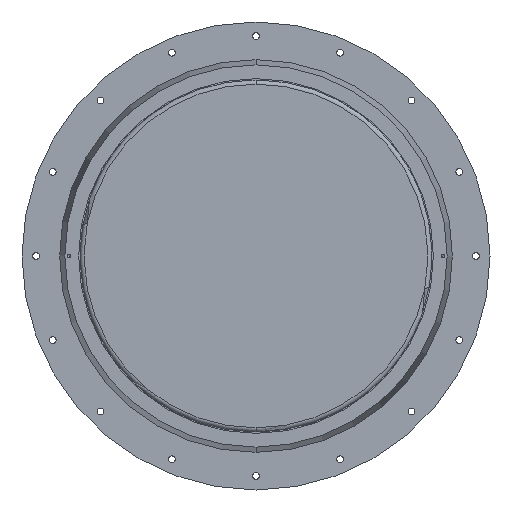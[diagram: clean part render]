
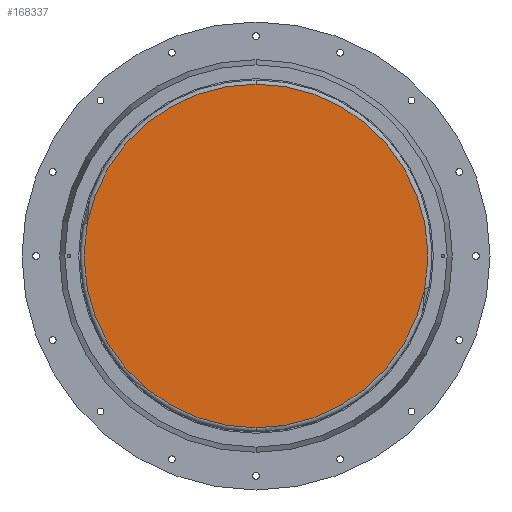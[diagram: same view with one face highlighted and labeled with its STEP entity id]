
A CAD part, front view. The second image highlights one B-rep face of the part: STEP entity #168337.
In plain terms, the highlighted planar face has unit normal (0, -1, 0).
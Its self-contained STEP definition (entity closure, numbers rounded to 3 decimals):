
#1061 = CARTESIAN_POINT ( 'NONE',  ( 625., -1805., 13.91 ) ) ;
#4769 = CARTESIAN_POINT ( 'NONE',  ( -625., -1805., -13.785 ) ) ;
#6209 = CIRCLE ( 'NONE', #57249, 625. ) ;
#6266 = DIRECTION ( 'NONE',  ( 0., 0., -1. ) ) ;
#7324 = B_SPLINE_CURVE_WITH_KNOTS ( 'NONE', 3,
 ( #79245, #93070, #38155, #134962, #52027, #148863, #65984 ),
 .UNSPECIFIED., .F., .F.,
 ( 4, 3, 4 ),
 ( 0., 0., 0. ),
 .UNSPECIFIED. ) ;
#9599 = VERTEX_POINT ( 'NONE', #129314 ) ;
#9802 = CARTESIAN_POINT ( 'NONE',  ( 624.855, -1805., 13.9 ) ) ;
#10900 = CARTESIAN_POINT ( 'NONE',  ( 0., -1805., 0. ) ) ;
#11301 = CARTESIAN_POINT ( 'NONE',  ( 624.845, -1805., 13.908 ) ) ;
#14121 = LINE ( 'NONE', #115182, #83320 ) ;
#14267 = VECTOR ( 'NONE', #56891, 1000. ) ;
#19012 = PLANE ( 'NONE',  #19075 ) ;
#19075 = AXIS2_PLACEMENT_3D ( 'NONE', #172089, #89093, #6266 ) ;
#19304 = CARTESIAN_POINT ( 'NONE',  ( -624.907, -1805., -13.859 ) ) ;
#20098 = CARTESIAN_POINT ( 'NONE',  ( 624.845, -1805., -13.908 ) ) ;
#21547 = B_SPLINE_CURVE_WITH_KNOTS ( 'NONE', 3,
 ( #4769, #88204, #19304, #116162, #33259, #130023, #47149 ),
 .UNSPECIFIED., .F., .F.,
 ( 4, 3, 4 ),
 ( 0., 0., 0. ),
 .UNSPECIFIED. ) ;
#22554 = ORIENTED_EDGE ( 'NONE', *, *, #179255, .F. ) ;
#23729 = CARTESIAN_POINT ( 'NONE',  ( 624.845, -1805., 13.908 ) ) ;
#24840 = DIRECTION ( 'NONE',  ( 0., 0., 1. ) ) ;
#28250 = EDGE_CURVE ( 'NONE', #132377, #141852, #41502, .T. ) ;
#29102 = DIRECTION ( 'NONE',  ( 0., 1., 0. ) ) ;
#32257 = DIRECTION ( 'NONE',  ( 0., 0., 1. ) ) ;
#33259 = CARTESIAN_POINT ( 'NONE',  ( -624.855, -1805., -13.9 ) ) ;
#34794 = CARTESIAN_POINT ( 'NONE',  ( -624.845, -1805., 13.908 ) ) ;
#36974 = EDGE_CURVE ( 'NONE', #176943, #163626, #168577, .T. ) ;
#37051 = CARTESIAN_POINT ( 'NONE',  ( 624.953, -1805., 13.822 ) ) ;
#38155 = CARTESIAN_POINT ( 'NONE',  ( -624.855, -1805., 13.9 ) ) ;
#39246 = CARTESIAN_POINT ( 'NONE',  ( -625., -1805., 13.785 ) ) ;
#39607 = ORIENTED_EDGE ( 'NONE', *, *, #113387, .F. ) ;
#41502 = LINE ( 'NONE', #95033, #115155 ) ;
#44956 = AXIS2_PLACEMENT_3D ( 'NONE', #160264, #77295, #174187 ) ;
#47149 = CARTESIAN_POINT ( 'NONE',  ( -624.845, -1805., -13.908 ) ) ;
#47938 = CARTESIAN_POINT ( 'NONE',  ( 624.855, -1805., -13.9 ) ) ;
#48650 = VERTEX_POINT ( 'NONE', #91569 ) ;
#50781 = ORIENTED_EDGE ( 'NONE', *, *, #150040, .T. ) ;
#52027 = CARTESIAN_POINT ( 'NONE',  ( -624.907, -1805., 13.859 ) ) ;
#54934 = AXIS2_PLACEMENT_3D ( 'NONE', #112015, #29102, #125881 ) ;
#56891 = DIRECTION ( 'NONE',  ( 0., 0., 1. ) ) ;
#57249 = AXIS2_PLACEMENT_3D ( 'NONE', #10900, #107707, #24840 ) ;
#61391 = ORIENTED_EDGE ( 'NONE', *, *, #173688, .F. ) ;
#61596 = ORIENTED_EDGE ( 'NONE', *, *, #68722, .T. ) ;
#61641 = EDGE_CURVE ( 'NONE', #131328, #84286, #175269, .T. ) ;
#61865 = CARTESIAN_POINT ( 'NONE',  ( 624.907, -1805., -13.859 ) ) ;
#64129 = VERTEX_POINT ( 'NONE', #73007 ) ;
#65984 = CARTESIAN_POINT ( 'NONE',  ( -625., -1805., 13.785 ) ) ;
#68722 = EDGE_CURVE ( 'NONE', #64129, #48650, #21547, .T. ) ;
#69966 = AXIS2_PLACEMENT_3D ( 'NONE', #158981, #75998, #172896 ) ;
#73007 = CARTESIAN_POINT ( 'NONE',  ( -625., -1805., -13.785 ) ) ;
#75700 = CARTESIAN_POINT ( 'NONE',  ( 625., -1805., -13.785 ) ) ;
#75998 = DIRECTION ( 'NONE',  ( 0., 1., 0. ) ) ;
#77295 = DIRECTION ( 'NONE',  ( 0., 1., 0. ) ) ;
#78861 = CARTESIAN_POINT ( 'NONE',  ( 0., -1805., -625. ) ) ;
#79245 = CARTESIAN_POINT ( 'NONE',  ( -624.845, -1805., 13.908 ) ) ;
#82866 = CARTESIAN_POINT ( 'NONE',  ( 625., -1805., 13.785 ) ) ;
#83320 = VECTOR ( 'NONE', #32257, 1000. ) ;
#84223 = CIRCLE ( 'NONE', #54934, 625. ) ;
#84286 = VERTEX_POINT ( 'NONE', #178525 ) ;
#85817 = EDGE_CURVE ( 'NONE', #84286, #166636, #87435, .T. ) ;
#87435 = CIRCLE ( 'NONE', #44956, 625. ) ;
#88204 = CARTESIAN_POINT ( 'NONE',  ( -624.953, -1805., -13.822 ) ) ;
#88488 = ORIENTED_EDGE ( 'NONE', *, *, #128576, .T. ) ;
#89093 = DIRECTION ( 'NONE',  ( 0., -1., 0. ) ) ;
#91569 = CARTESIAN_POINT ( 'NONE',  ( -624.845, -1805., -13.908 ) ) ;
#92583 = CARTESIAN_POINT ( 'NONE',  ( 624.86, -1805., 13.896 ) ) ;
#92610 = DIRECTION ( 'NONE',  ( 0., 0., 1. ) ) ;
#93070 = CARTESIAN_POINT ( 'NONE',  ( -624.85, -1805., 13.904 ) ) ;
#95033 = CARTESIAN_POINT ( 'NONE',  ( -625., -1805., 13.91 ) ) ;
#96359 = B_SPLINE_CURVE_WITH_KNOTS ( 'NONE', 3,
 ( #20098, #144120, #47938, #144705, #61865, #158663, #75700 ),
 .UNSPECIFIED., .F., .F.,
 ( 4, 3, 4 ),
 ( 0., 0., 0. ),
 .UNSPECIFIED. ) ;
#98612 = EDGE_CURVE ( 'NONE', #9599, #176943, #157130, .T. ) ;
#99520 = ORIENTED_EDGE ( 'NONE', *, *, #98612, .T. ) ;
#102761 = ORIENTED_EDGE ( 'NONE', *, *, #28250, .F. ) ;
#106614 = CARTESIAN_POINT ( 'NONE',  ( 624.85, -1805., 13.904 ) ) ;
#107707 = DIRECTION ( 'NONE',  ( 0., 1., 0. ) ) ;
#112015 = CARTESIAN_POINT ( 'NONE',  ( 0., -1805., 0. ) ) ;
#113082 = CARTESIAN_POINT ( 'NONE',  ( -625., -1805., 0. ) ) ;
#113359 = ORIENTED_EDGE ( 'NONE', *, *, #173654, .T. ) ;
#113387 = EDGE_CURVE ( 'NONE', #131428, #48650, #84223, .T. ) ;
#115155 = VECTOR ( 'NONE', #92610, 1000. ) ;
#115182 = CARTESIAN_POINT ( 'NONE',  ( -625., -1805., 13.91 ) ) ;
#115263 = CARTESIAN_POINT ( 'NONE',  ( 624.845, -1805., -13.908 ) ) ;
#116162 = CARTESIAN_POINT ( 'NONE',  ( -624.86, -1805., -13.896 ) ) ;
#117570 = ORIENTED_EDGE ( 'NONE', *, *, #61641, .F. ) ;
#125670 = DIRECTION ( 'NONE',  ( 0., 0., 1. ) ) ;
#125881 = DIRECTION ( 'NONE',  ( 0., 0., 1. ) ) ;
#126188 = FACE_OUTER_BOUND ( 'NONE', #132672, .T. ) ;
#128576 = EDGE_CURVE ( 'NONE', #163626, #166636, #154395, .T. ) ;
#129314 = CARTESIAN_POINT ( 'NONE',  ( 625., -1805., -13.785 ) ) ;
#130023 = CARTESIAN_POINT ( 'NONE',  ( -624.85, -1805., -13.904 ) ) ;
#131328 = VERTEX_POINT ( 'NONE', #34794 ) ;
#131428 = VERTEX_POINT ( 'NONE', #78861 ) ;
#132377 = VERTEX_POINT ( 'NONE', #113082 ) ;
#132672 = EDGE_LOOP ( 'NONE', ( #99520, #135828, #88488, #167356, #117570, #113359, #102761, #22554, #61596, #39607, #61391, #50781 ) ) ;
#133889 = CARTESIAN_POINT ( 'NONE',  ( 625., -1805., 13.785 ) ) ;
#134962 = CARTESIAN_POINT ( 'NONE',  ( -624.86, -1805., 13.896 ) ) ;
#135828 = ORIENTED_EDGE ( 'NONE', *, *, #36974, .T. ) ;
#141852 = VERTEX_POINT ( 'NONE', #39246 ) ;
#144120 = CARTESIAN_POINT ( 'NONE',  ( 624.85, -1805., -13.904 ) ) ;
#144705 = CARTESIAN_POINT ( 'NONE',  ( 624.86, -1805., -13.896 ) ) ;
#148863 = CARTESIAN_POINT ( 'NONE',  ( -624.953, -1805., 13.822 ) ) ;
#150040 = EDGE_CURVE ( 'NONE', #160724, #9599, #96359, .T. ) ;
#153714 = CARTESIAN_POINT ( 'NONE',  ( 625., -1805., 13.91 ) ) ;
#154395 = B_SPLINE_CURVE_WITH_KNOTS ( 'NONE', 3,
 ( #133889, #37051, #175619, #92583, #9802, #106614, #23729 ),
 .UNSPECIFIED., .F., .F.,
 ( 4, 3, 4 ),
 ( 0., 0., 0. ),
 .UNSPECIFIED. ) ;
#157130 = LINE ( 'NONE', #153714, #14267 ) ;
#157175 = CARTESIAN_POINT ( 'NONE',  ( 625., -1805., 0. ) ) ;
#158663 = CARTESIAN_POINT ( 'NONE',  ( 624.953, -1805., -13.822 ) ) ;
#158981 = CARTESIAN_POINT ( 'NONE',  ( 0., -1805., 0. ) ) ;
#160264 = CARTESIAN_POINT ( 'NONE',  ( 0., -1805., 0. ) ) ;
#160724 = VERTEX_POINT ( 'NONE', #115263 ) ;
#163626 = VERTEX_POINT ( 'NONE', #82866 ) ;
#164261 = VECTOR ( 'NONE', #125670, 1000. ) ;
#166636 = VERTEX_POINT ( 'NONE', #11301 ) ;
#167356 = ORIENTED_EDGE ( 'NONE', *, *, #85817, .F. ) ;
#168337 = ADVANCED_FACE ( 'NONE', ( #126188 ), #19012, .T. ) ;
#168577 = LINE ( 'NONE', #1061, #164261 ) ;
#172089 = CARTESIAN_POINT ( 'NONE',  ( -625., -1805., 0. ) ) ;
#172896 = DIRECTION ( 'NONE',  ( 0., 0., 1. ) ) ;
#173654 = EDGE_CURVE ( 'NONE', #131328, #141852, #7324, .T. ) ;
#173688 = EDGE_CURVE ( 'NONE', #160724, #131428, #6209, .T. ) ;
#174187 = DIRECTION ( 'NONE',  ( 0., 0., 1. ) ) ;
#175269 = CIRCLE ( 'NONE', #69966, 625. ) ;
#175619 = CARTESIAN_POINT ( 'NONE',  ( 624.907, -1805., 13.859 ) ) ;
#176943 = VERTEX_POINT ( 'NONE', #157175 ) ;
#178525 = CARTESIAN_POINT ( 'NONE',  ( 0., -1805., 625. ) ) ;
#179255 = EDGE_CURVE ( 'NONE', #64129, #132377, #14121, .T. ) ;
